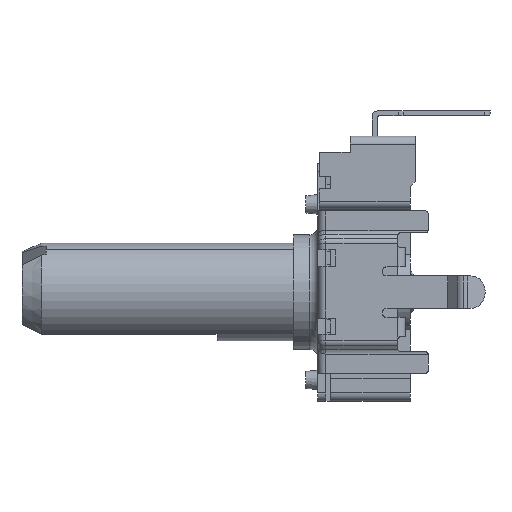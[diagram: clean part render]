
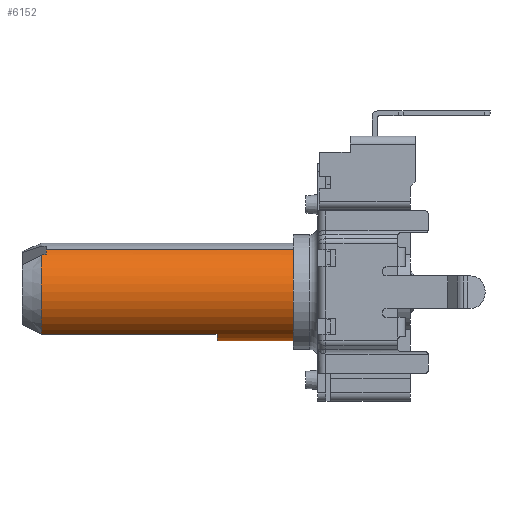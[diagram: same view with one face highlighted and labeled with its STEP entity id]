
A CAD part, left-side view. The second image highlights one B-rep face of the part: STEP entity #6152.
In plain terms, the highlighted cylindrical face has radius 3 mm (diameter 6 mm), a partial arc.
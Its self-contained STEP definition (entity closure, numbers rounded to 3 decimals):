
#178 = CARTESIAN_POINT ( 'NONE',  ( 0.533, 20., -2.952 ) ) ;
#544 = CARTESIAN_POINT ( 'NONE',  ( 0., 19.8, -3. ) ) ;
#899 = DIRECTION ( 'NONE',  ( 0., 0., 1. ) ) ;
#911 = CARTESIAN_POINT ( 'NONE',  ( 0., 20.1, -3. ) ) ;
#1092 = DIRECTION ( 'NONE',  ( 0., -1., 0. ) ) ;
#1281 = VECTOR ( 'NONE', #14981, 1000. ) ;
#1476 = CYLINDRICAL_SURFACE ( 'NONE', #6415, 3. ) ;
#2258 = CARTESIAN_POINT ( 'NONE',  ( 2.598, 9.3, 1.5 ) ) ;
#2643 = FACE_OUTER_BOUND ( 'NONE', #3322, .T. ) ;
#2646 = CARTESIAN_POINT ( 'NONE',  ( 0.5, 19.8, -2.958 ) ) ;
#2877 = VERTEX_POINT ( 'NONE', #544 ) ;
#3180 = EDGE_CURVE ( 'NONE', #8783, #16916, #12228, .T. ) ;
#3322 = EDGE_LOOP ( 'NONE', ( #6156, #17065, #15980, #13460, #9185, #15074, #12021, #10377 ) ) ;
#4137 = CARTESIAN_POINT ( 'NONE',  ( 2.598, 20.1, 1.5 ) ) ;
#4212 = DIRECTION ( 'NONE',  ( 0., -1., 0. ) ) ;
#4292 = LINE ( 'NONE', #14831, #1281 ) ;
#4402 = CARTESIAN_POINT ( 'NONE',  ( 0.55, 20.1, -2.949 ) ) ;
#4924 = CARTESIAN_POINT ( 'NONE',  ( 0., 20.1, 0. ) ) ;
#5026 = DIRECTION ( 'NONE',  ( 0., 0., 1. ) ) ;
#5606 = EDGE_CURVE ( 'NONE', #2877, #6485, #12928, .T. ) ;
#5874 = CIRCLE ( 'NONE', #15674, 3. ) ;
#6116 = VERTEX_POINT ( 'NONE', #4137 ) ;
#6152 = ADVANCED_FACE ( 'NONE', ( #2643 ), #1476, .T. ) ;
#6156 = ORIENTED_EDGE ( 'NONE', *, *, #7183, .F. ) ;
#6413 = EDGE_CURVE ( 'NONE', #6116, #8783, #6430, .T. ) ;
#6415 = AXIS2_PLACEMENT_3D ( 'NONE', #17283, #4212, #6688 ) ;
#6430 = CIRCLE ( 'NONE', #7253, 3. ) ;
#6485 = VERTEX_POINT ( 'NONE', #10918 ) ;
#6504 = DIRECTION ( 'NONE',  ( 0., 1., 0. ) ) ;
#6581 = DIRECTION ( 'NONE',  ( 0., 1., 0. ) ) ;
#6688 = DIRECTION ( 'NONE',  ( 0., 0., -1. ) ) ;
#6871 = VECTOR ( 'NONE', #14588, 1000. ) ;
#7183 = EDGE_CURVE ( 'NONE', #14292, #16958, #5874, .T. ) ;
#7253 = AXIS2_PLACEMENT_3D ( 'NONE', #4924, #15621, #5026 ) ;
#7271 = AXIS2_PLACEMENT_3D ( 'NONE', #7558, #6504, #10173 ) ;
#7558 = CARTESIAN_POINT ( 'NONE',  ( 0., 19.8, 0. ) ) ;
#7635 = EDGE_CURVE ( 'NONE', #16916, #2877, #12307, .T. ) ;
#7748 = CARTESIAN_POINT ( 'NONE',  ( 0., 9.3, 0. ) ) ;
#7752 = LINE ( 'NONE', #14405, #6871 ) ;
#7795 = VECTOR ( 'NONE', #1092, 1000. ) ;
#8143 = CARTESIAN_POINT ( 'NONE',  ( 0., 2.5, 3. ) ) ;
#8783 = VERTEX_POINT ( 'NONE', #4402 ) ;
#9134 = CIRCLE ( 'NONE', #11075, 3. ) ;
#9185 = ORIENTED_EDGE ( 'NONE', *, *, #7635, .F. ) ;
#9302 = CARTESIAN_POINT ( 'NONE',  ( 0.55, 20.1, -2.949 ) ) ;
#10113 = EDGE_CURVE ( 'NONE', #14292, #16238, #7752, .T. ) ;
#10173 = DIRECTION ( 'NONE',  ( 0., 0., -1. ) ) ;
#10377 = ORIENTED_EDGE ( 'NONE', *, *, #15888, .F. ) ;
#10618 = EDGE_CURVE ( 'NONE', #16238, #6485, #9134, .T. ) ;
#10701 = CARTESIAN_POINT ( 'NONE',  ( 0.517, 19.9, -2.955 ) ) ;
#10918 = CARTESIAN_POINT ( 'NONE',  ( 0., 2.5, -3. ) ) ;
#11075 = AXIS2_PLACEMENT_3D ( 'NONE', #13233, #6581, #17273 ) ;
#11446 = CARTESIAN_POINT ( 'NONE',  ( 0.5, 19.8, -2.958 ) ) ;
#11503 = CARTESIAN_POINT ( 'NONE',  ( 0., 9.3, 3. ) ) ;
#12021 = ORIENTED_EDGE ( 'NONE', *, *, #6413, .F. ) ;
#12228 =( BOUNDED_CURVE ( )  B_SPLINE_CURVE ( 3, ( #9302, #178, #10701, #2646 ),
 .UNSPECIFIED., .F., .F. ) 
 B_SPLINE_CURVE_WITH_KNOTS ( ( 4, 4 ),
 ( 4.528, 4.545 ),
 .UNSPECIFIED. ) 
 CURVE ( )  GEOMETRIC_REPRESENTATION_ITEM ( )  RATIONAL_B_SPLINE_CURVE ( ( 1., 1., 1., 1. ) ) 
 REPRESENTATION_ITEM ( '' )  );
#12307 = CIRCLE ( 'NONE', #7271, 3. ) ;
#12928 = LINE ( 'NONE', #911, #7795 ) ;
#13233 = CARTESIAN_POINT ( 'NONE',  ( 0., 2.5, 0. ) ) ;
#13460 = ORIENTED_EDGE ( 'NONE', *, *, #5606, .F. ) ;
#14292 = VERTEX_POINT ( 'NONE', #11503 ) ;
#14400 = DIRECTION ( 'NONE',  ( 0., 1., 0. ) ) ;
#14405 = CARTESIAN_POINT ( 'NONE',  ( 0., 20.1, 3. ) ) ;
#14588 = DIRECTION ( 'NONE',  ( 0., -1., 0. ) ) ;
#14831 = CARTESIAN_POINT ( 'NONE',  ( 2.598, 9.3, 1.5 ) ) ;
#14981 = DIRECTION ( 'NONE',  ( 0., 1., 0. ) ) ;
#15074 = ORIENTED_EDGE ( 'NONE', *, *, #3180, .F. ) ;
#15621 = DIRECTION ( 'NONE',  ( 0., 1., 0. ) ) ;
#15674 = AXIS2_PLACEMENT_3D ( 'NONE', #7748, #14400, #899 ) ;
#15888 = EDGE_CURVE ( 'NONE', #16958, #6116, #4292, .T. ) ;
#15980 = ORIENTED_EDGE ( 'NONE', *, *, #10618, .T. ) ;
#16238 = VERTEX_POINT ( 'NONE', #8143 ) ;
#16916 = VERTEX_POINT ( 'NONE', #11446 ) ;
#16958 = VERTEX_POINT ( 'NONE', #2258 ) ;
#17065 = ORIENTED_EDGE ( 'NONE', *, *, #10113, .T. ) ;
#17273 = DIRECTION ( 'NONE',  ( 0., 0., 1. ) ) ;
#17283 = CARTESIAN_POINT ( 'NONE',  ( 0., 20.1, 0. ) ) ;
